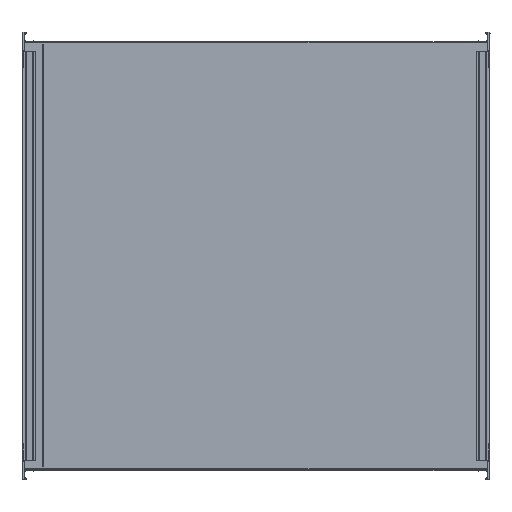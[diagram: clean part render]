
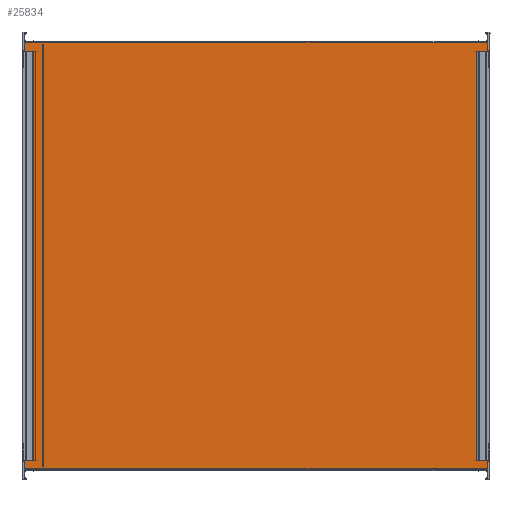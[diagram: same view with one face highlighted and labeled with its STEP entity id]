
A CAD part, top view. The second image highlights one B-rep face of the part: STEP entity #25834.
In plain terms, the highlighted planar face has unit normal (0, 0, 1).
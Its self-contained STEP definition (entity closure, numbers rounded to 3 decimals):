
#793=FACE_BOUND('',#3628,.T.);
#794=FACE_BOUND('',#3629,.T.);
#2311=FACE_OUTER_BOUND('',#3627,.T.);
#3627=EDGE_LOOP('',(#22975,#22976,#22977,#22978,#22979,#22980));
#3628=EDGE_LOOP('',(#22981,#22982,#22983,#22984));
#3629=EDGE_LOOP('',(#22985,#22986,#22987,#22988));
#4481=LINE('',#35167,#7181);
#4889=LINE('',#38855,#7589);
#4953=LINE('',#39066,#7653);
#5577=LINE('',#40553,#8277);
#5608=LINE('',#40632,#8308);
#5632=LINE('',#40679,#8332);
#5634=LINE('',#40682,#8334);
#6052=LINE('',#41671,#8752);
#6074=LINE('',#41731,#8774);
#6125=LINE('',#41865,#8825);
#6127=LINE('',#41868,#8827);
#6844=LINE('',#44004,#9544);
#6849=LINE('',#44014,#9549);
#6858=LINE('',#44028,#9558);
#7181=VECTOR('',#27707,10.);
#7589=VECTOR('',#28303,10.);
#7653=VECTOR('',#28457,10.);
#8277=VECTOR('',#29723,10.);
#8308=VECTOR('',#29792,10.);
#8332=VECTOR('',#29862,10.);
#8334=VECTOR('',#29866,10.);
#8752=VECTOR('',#30754,10.);
#8774=VECTOR('',#30804,10.);
#8825=VECTOR('',#30951,10.);
#8827=VECTOR('',#30955,10.);
#9544=VECTOR('',#32692,10.);
#9549=VECTOR('',#32703,10.);
#9558=VECTOR('',#32714,10.);
#9916=VERTEX_POINT('',#35156);
#9921=VERTEX_POINT('',#35165);
#10419=VERTEX_POINT('',#38852);
#10420=VERTEX_POINT('',#38854);
#10505=VERTEX_POINT('',#39031);
#10521=VERTEX_POINT('',#39063);
#10522=VERTEX_POINT('',#39065);
#11063=VERTEX_POINT('',#40550);
#11064=VERTEX_POINT('',#40552);
#11080=VERTEX_POINT('',#40584);
#11428=VERTEX_POINT('',#41668);
#11429=VERTEX_POINT('',#41670);
#11452=VERTEX_POINT('',#41728);
#11453=VERTEX_POINT('',#41730);
#12509=EDGE_CURVE('',#9916,#9921,#4481,.T.);
#13251=EDGE_CURVE('',#10419,#10420,#4889,.T.);
#13356=EDGE_CURVE('',#10522,#10521,#4953,.T.);
#14108=EDGE_CURVE('',#11064,#11063,#5577,.T.);
#14149=EDGE_CURVE('',#10505,#11080,#5608,.T.);
#14173=EDGE_CURVE('',#11063,#10522,#5632,.T.);
#14175=EDGE_CURVE('',#11064,#10521,#5634,.T.);
#14676=EDGE_CURVE('',#11429,#11428,#6052,.T.);
#14708=EDGE_CURVE('',#11453,#11452,#6074,.T.);
#14776=EDGE_CURVE('',#11428,#11453,#6125,.T.);
#14778=EDGE_CURVE('',#11429,#11452,#6127,.T.);
#15655=EDGE_CURVE('',#11080,#9921,#6844,.T.);
#15660=EDGE_CURVE('',#10420,#10505,#6849,.T.);
#15669=EDGE_CURVE('',#9916,#10419,#6858,.T.);
#22975=ORIENTED_EDGE('',*,*,#12509,.T.);
#22976=ORIENTED_EDGE('',*,*,#15655,.F.);
#22977=ORIENTED_EDGE('',*,*,#14149,.F.);
#22978=ORIENTED_EDGE('',*,*,#15660,.F.);
#22979=ORIENTED_EDGE('',*,*,#13251,.F.);
#22980=ORIENTED_EDGE('',*,*,#15669,.F.);
#22981=ORIENTED_EDGE('',*,*,#13356,.T.);
#22982=ORIENTED_EDGE('',*,*,#14175,.F.);
#22983=ORIENTED_EDGE('',*,*,#14108,.T.);
#22984=ORIENTED_EDGE('',*,*,#14173,.T.);
#22985=ORIENTED_EDGE('',*,*,#14708,.T.);
#22986=ORIENTED_EDGE('',*,*,#14778,.F.);
#22987=ORIENTED_EDGE('',*,*,#14676,.T.);
#22988=ORIENTED_EDGE('',*,*,#14776,.T.);
#23765=PLANE('',#27240);
#25834=ADVANCED_FACE('',(#2311,#793,#794),#23765,.T.);
#27240=AXIS2_PLACEMENT_3D('',#44041,#32730,#32731);
#27707=DIRECTION('',(-1.,0.,0.));
#28303=DIRECTION('',(-1.,0.,0.));
#28457=DIRECTION('',(-1.,0.,0.));
#29723=DIRECTION('',(1.,0.,0.));
#29792=DIRECTION('',(0.,1.,0.));
#29862=DIRECTION('',(0.,-1.,0.));
#29866=DIRECTION('',(0.,-1.,0.));
#30754=DIRECTION('',(-1.,0.,0.));
#30804=DIRECTION('',(1.,0.,0.));
#30951=DIRECTION('',(0.,1.,0.));
#30955=DIRECTION('',(0.,1.,0.));
#32692=DIRECTION('',(0.,1.,0.));
#32703=DIRECTION('',(0.,1.,0.));
#32714=DIRECTION('',(0.,-1.,0.));
#32730=DIRECTION('center_axis',(0.,0.,1.));
#32731=DIRECTION('ref_axis',(1.,0.,0.));
#35156=CARTESIAN_POINT('',(0.,803.,1.5));
#35165=CARTESIAN_POINT('',(-878.,803.,1.5));
#35167=CARTESIAN_POINT('',(-658.5,803.,1.5));
#38852=CARTESIAN_POINT('',(0.,0.,1.5));
#38854=CARTESIAN_POINT('',(-878.,0.,1.5));
#38855=CARTESIAN_POINT('',(-219.5,0.,1.5));
#39031=CARTESIAN_POINT('',(-878.,16.4,1.5));
#39063=CARTESIAN_POINT('',(-871.233,16.4,1.5));
#39065=CARTESIAN_POINT('',(-858.936,16.4,1.5));
#39066=CARTESIAN_POINT('',(-655.011,16.4,1.5));
#40550=CARTESIAN_POINT('',(-858.936,786.4,1.5));
#40552=CARTESIAN_POINT('',(-871.233,786.4,1.5));
#40553=CARTESIAN_POINT('',(-655.011,786.4,1.5));
#40584=CARTESIAN_POINT('',(-878.,786.4,1.5));
#40632=CARTESIAN_POINT('',(-878.,0.,1.5));
#40679=CARTESIAN_POINT('',(-858.936,786.4,1.5));
#40682=CARTESIAN_POINT('',(-871.233,786.4,1.5));
#41668=CARTESIAN_POINT('',(-18.664,16.4,1.5));
#41670=CARTESIAN_POINT('',(-6.367,16.4,1.5));
#41671=CARTESIAN_POINT('',(-222.789,16.4,1.5));
#41728=CARTESIAN_POINT('',(-6.367,786.4,1.5));
#41730=CARTESIAN_POINT('',(-18.664,786.4,1.5));
#41731=CARTESIAN_POINT('',(-222.789,786.4,1.5));
#41865=CARTESIAN_POINT('',(-18.664,16.4,1.5));
#41868=CARTESIAN_POINT('',(-6.367,16.4,1.5));
#44004=CARTESIAN_POINT('',(-878.,0.,1.5));
#44014=CARTESIAN_POINT('',(-878.,0.,1.5));
#44028=CARTESIAN_POINT('',(0.,803.,1.5));
#44041=CARTESIAN_POINT('Origin',(-439.,401.5,1.5));
